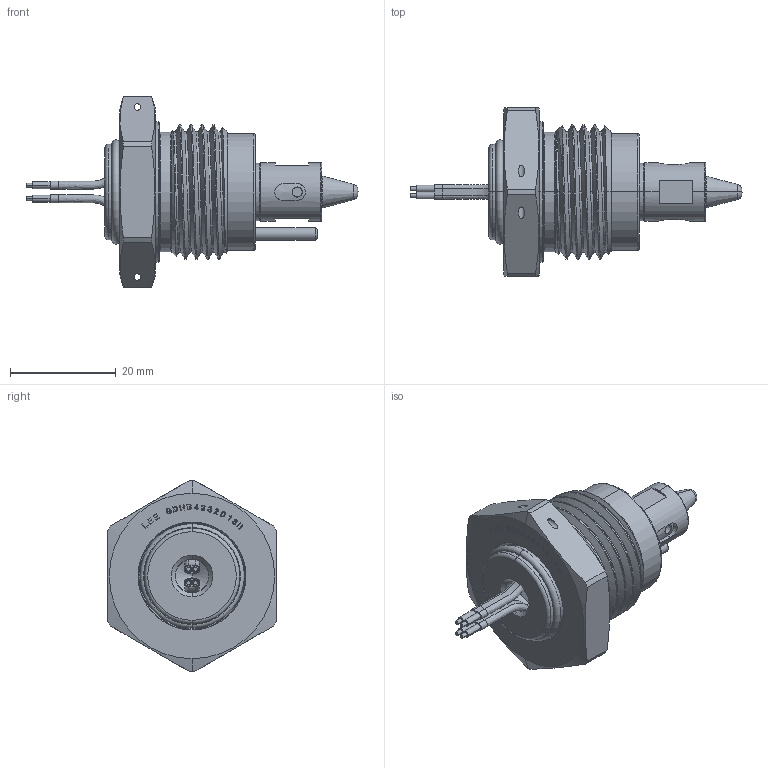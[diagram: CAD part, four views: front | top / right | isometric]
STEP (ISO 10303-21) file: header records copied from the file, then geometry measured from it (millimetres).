
FILE_DESCRIPTION(('Creo Elements/Direct Modeling STEP Export'),'2;1');
FILE_NAME('SDHB4332013B.stp','2021-04-08T 9:59:40',(''),(''),'Creo Elements/Direct Modeling STEP processor for AP214 (Solid Model)','Creo Elements/Direct Modeling 18.1 03-Mar-2012 (C) Parametric Technology GmbH','');
FILE_SCHEMA(('AUTOMOTIVE_DESIGN { 1 0 10303 214 1 1 1 1 }'));
Length unit declared in the file: millimetre
Products named in the file (2): SDHB4332013B
Assembly tree (1 placements, depth 2):
  SDHB4332013B
    SDHB4332013B
Bounding box: 62.74 x 31.75 x 36.08 mm (x, y, z)
Volume: 15837.9 mm3; surface area: 5718.1 mm2
Topology: 1 solids, 1 shells, 795 faces, 2199 edges, 1451 vertices
Faces by surface type: plane 647, cylinder 86, cone 26, torus 24, bspline 6, extrusion 4, sphere 2
Entity records: 30759 total; most frequent: CARTESIAN_POINT 10103, ORIENTED_EDGE 4390, DIRECTION 3612, EDGE_CURVE 2195, VECTOR 1860, LINE 1856, VERTEX_POINT 1451, AXIS2_PLACEMENT_3D 876
